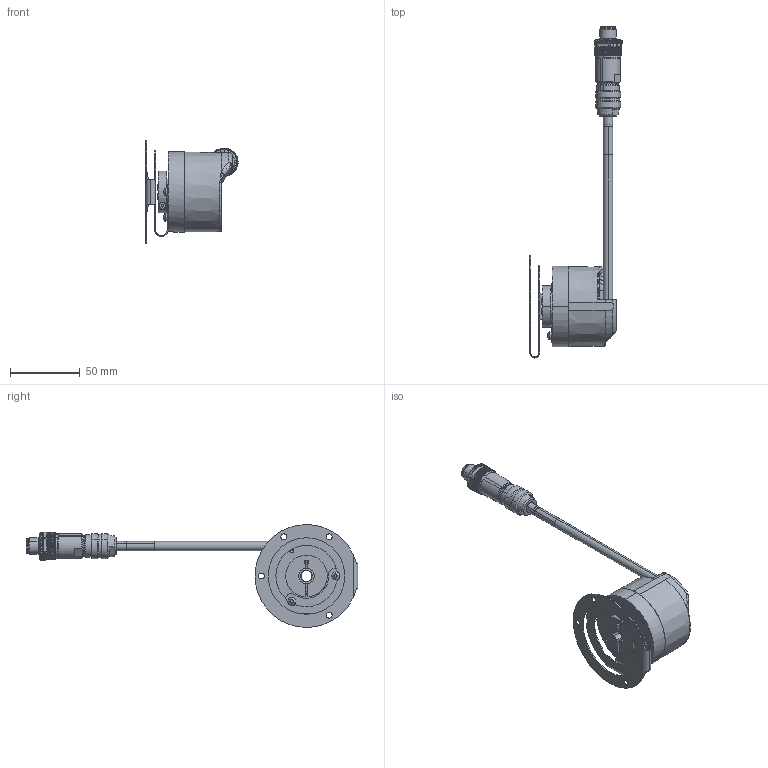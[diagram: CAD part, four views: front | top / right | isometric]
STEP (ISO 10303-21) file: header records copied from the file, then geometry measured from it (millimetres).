
FILE_DESCRIPTION (( 'STEP AP203' ), '1' );
FILE_NAME ('K58I.OXX.XXXXX.XH13508.6XT12.XXXX.step', '2025-12-08T13:16:35', ( '' ), ( '' ), 'SwSTEP 2.0', 'SolidWorks 2021', '' );
FILE_SCHEMA (( 'CONFIG_CONTROL_DESIGN' ));
Length unit declared in the file: millimetre
Products named in the file (1): K58I.OXX.XXXXX.XH13508.6XT12.XXXX
Bounding box: 66.28 x 238.59 x 74 mm (x, y, z)
Volume: 120164.7 mm3; surface area: 49392.2 mm2
Topology: 15 solids, 20 shells, 1520 faces, 3754 edges, 2282 vertices
Faces by surface type: cylinder 537, plane 522, cone 307, bspline 70, torus 53, sphere 31
Entity records: 49798 total; most frequent: CARTESIAN_POINT 15037, ORIENTED_EDGE 7394, DIRECTION 7160, EDGE_CURVE 3697, AXIS2_PLACEMENT_3D 2893, VERTEX_POINT 2266, EDGE_LOOP 1601, ADVANCED_FACE 1520
